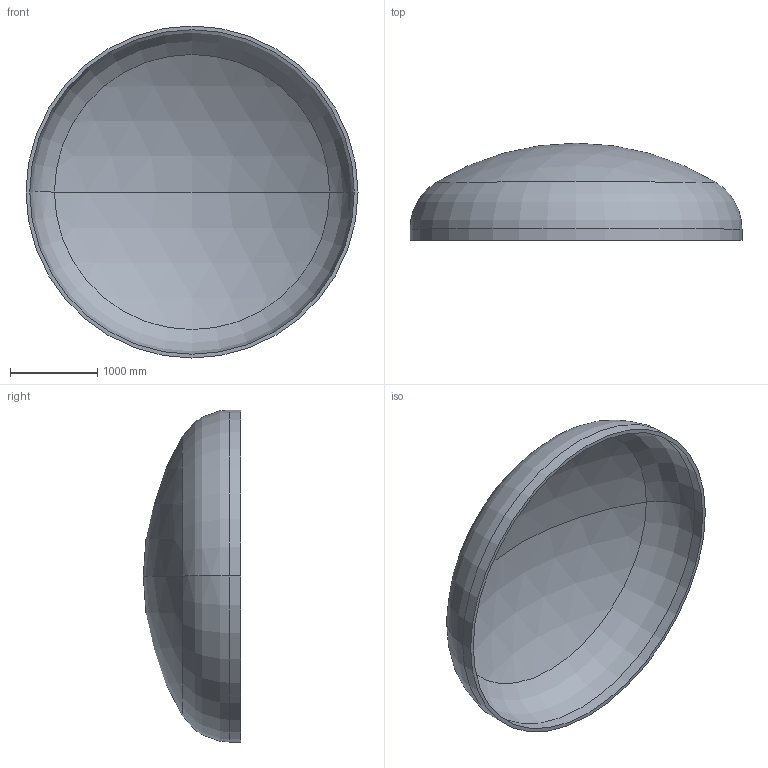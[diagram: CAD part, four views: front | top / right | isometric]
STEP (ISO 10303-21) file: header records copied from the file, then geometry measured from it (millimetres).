
FILE_DESCRIPTION (( 'STEP AP203' ), '1' );
FILE_NAME ('DIN 28013 Korbbogenform_-_Boden DIN 28013 - 3800 x 130 - I - s=43.step', '2016-07-01T21:24:48', ( '' ), ( '' ), 'SwSTEP 2.0', 'SolidWorks 2013', '' );
FILE_SCHEMA (( 'CONFIG_CONTROL_DESIGN' ));
Length unit declared in the file: millimetre
Products named in the file (1): DIN 28013 Korbbogenform_-_Boden DIN 28013 - 3800 x 130 - I - s=43
Bounding box: 3800 x 1113.23 x 3800 mm (x, y, z)
Volume: 731317694.1 mm3; surface area: 34526164.1 mm2
Topology: 1 solids, 1 shells, 13 faces, 24 edges, 14 vertices
Faces by surface type: torus 4, cylinder 4, sphere 4, plane 1
Entity records: 407 total; most frequent: DIRECTION 72, CARTESIAN_POINT 52, ORIENTED_EDGE 48, AXIS2_PLACEMENT_3D 34, EDGE_CURVE 24, CIRCLE 20, VERTEX_POINT 14, EDGE_LOOP 14
